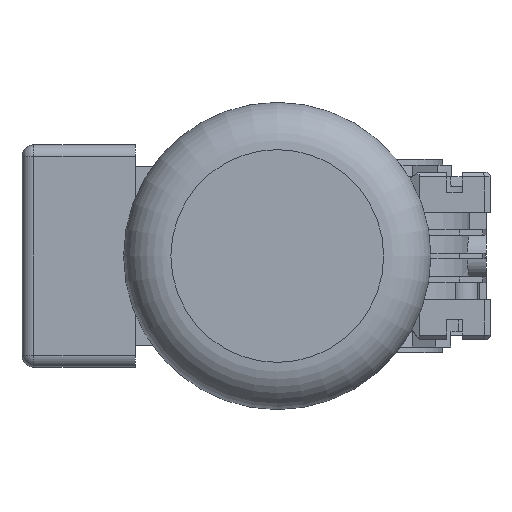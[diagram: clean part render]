
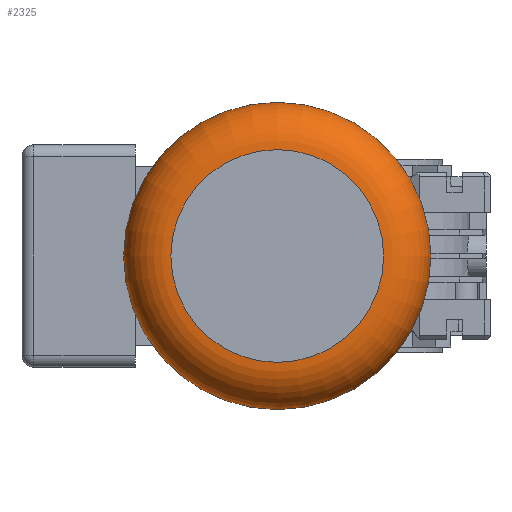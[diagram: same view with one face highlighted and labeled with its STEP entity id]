
A CAD part, left-side view. The second image highlights one B-rep face of the part: STEP entity #2325.
In plain terms, the highlighted toroidal (fillet/blend) face has major radius 45 mm and minor radius 20 mm.
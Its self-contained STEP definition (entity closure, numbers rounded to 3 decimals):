
#2325 = ADVANCED_FACE( '', ( #5141, #5142 ), #5143, .T. );
#5141 = FACE_OUTER_BOUND( '', #8417, .T. );
#5142 = FACE_OUTER_BOUND( '', #8418, .T. );
#5143 = TOROIDAL_SURFACE( '', #8419, 45., 20. );
#8417 = EDGE_LOOP( '', ( #15606 ) );
#8418 = EDGE_LOOP( '', ( #15607 ) );
#8419 = AXIS2_PLACEMENT_3D( '', #15608, #15609, #15610 );
#15606 = ORIENTED_EDGE( '', *, *, #20341, .F. );
#15607 = ORIENTED_EDGE( '', *, *, #21832, .F. );
#15608 = CARTESIAN_POINT( '', ( -247.5, 40., 0. ) );
#15609 = DIRECTION( '', ( -1., 0., 0. ) );
#15610 = DIRECTION( '', ( 0., 1., 0. ) );
#20341 = EDGE_CURVE( '', #24886, #24886, #24887, .T. );
#21832 = EDGE_CURVE( '', #27194, #27194, #27195, .F. );
#24886 = VERTEX_POINT( '', #31249 );
#24887 = CIRCLE( '', #31250, 45. );
#27194 = VERTEX_POINT( '', #34732 );
#27195 = CIRCLE( '', #34733, 65. );
#31249 = CARTESIAN_POINT( '', ( -267.5, 85., 0. ) );
#31250 = AXIS2_PLACEMENT_3D( '', #37985, #37986, #37987 );
#34732 = CARTESIAN_POINT( '', ( -247.5, 105., 0. ) );
#34733 = AXIS2_PLACEMENT_3D( '', #39597, #39598, #39599 );
#37985 = CARTESIAN_POINT( '', ( -267.5, 40., 0. ) );
#37986 = DIRECTION( '', ( -1., 0., 0. ) );
#37987 = DIRECTION( '', ( 0., 1., 0. ) );
#39597 = CARTESIAN_POINT( '', ( -247.5, 40., 0. ) );
#39598 = DIRECTION( '', ( -1., 0., 0. ) );
#39599 = DIRECTION( '', ( 0., 1., 0. ) );
